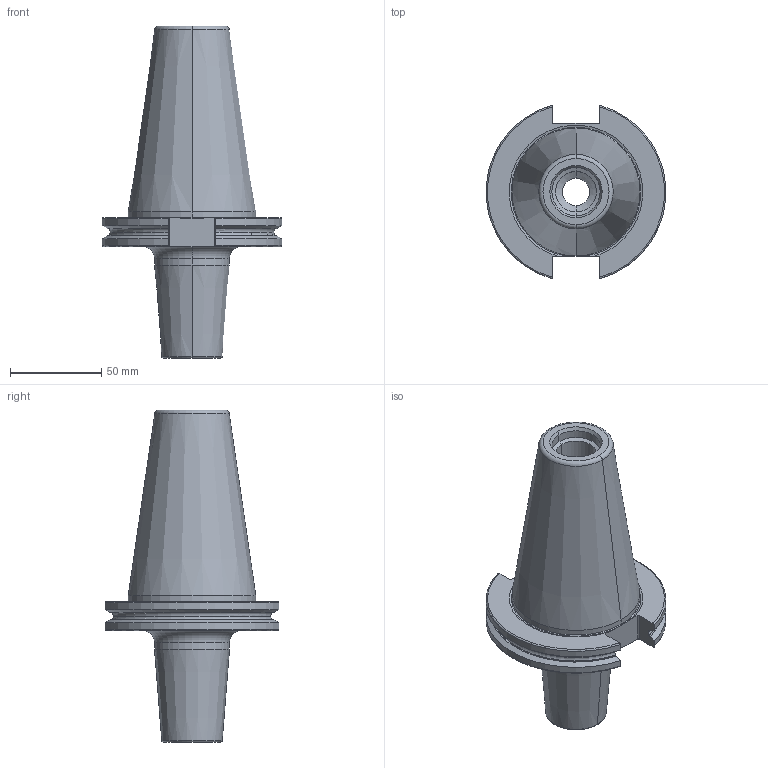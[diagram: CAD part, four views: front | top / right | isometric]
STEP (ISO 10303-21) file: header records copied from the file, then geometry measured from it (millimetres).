
FILE_DESCRIPTION (( 'STEP AP214' ), '1' );
FILE_NAME ('RC5SF0750315.STEP', '2019-02-28T19:21:01', ( '' ), ( '' ), 'SwSTEP 2.0', 'SolidWorks 2019', '' );
FILE_SCHEMA (( 'AUTOMOTIVE_DESIGN' ));
Length unit declared in the file: inch
Products named in the file (2): RC5SF0750315
Bounding box: 98.05 x 94.95 x 181.6 mm (x, y, z)
Volume: 372703.6 mm3; surface area: 53876.9 mm2
Topology: 1 solids, 1 shells, 93 faces, 234 edges, 143 vertices
Faces by surface type: cylinder 28, cone 25, torus 20, plane 20
Entity records: 4221 total; most frequent: CARTESIAN_POINT 736, DIRECTION 483, ORIENTED_EDGE 464, EDGE_CURVE 232, AXIS2_PLACEMENT_3D 196, VERTEX_POINT 143, CIRCLE 101, EDGE_LOOP 97
